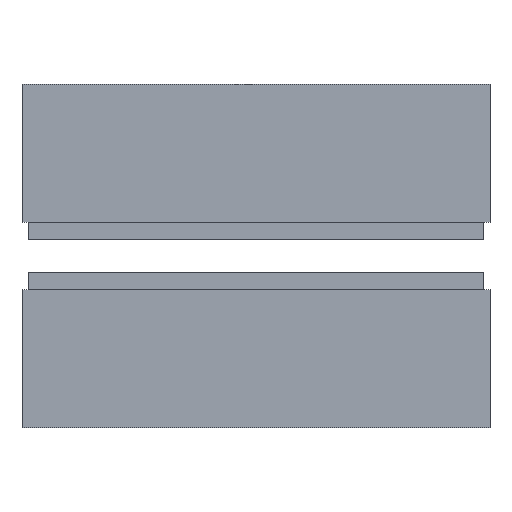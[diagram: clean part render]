
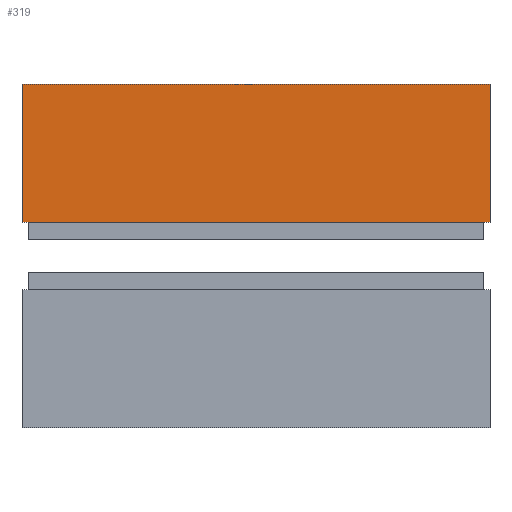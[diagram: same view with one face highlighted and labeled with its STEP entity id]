
A CAD part, top view. The second image highlights one B-rep face of the part: STEP entity #319.
In plain terms, the highlighted planar face has unit normal (0, 0, 1).
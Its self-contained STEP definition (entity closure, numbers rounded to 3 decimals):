
#24 = VERTEX_POINT('',#25);
#25 = CARTESIAN_POINT('',(-68.8,9.9,13.1));
#32 = PLANE('',#33);
#33 = AXIS2_PLACEMENT_3D('',#34,#35,#36);
#34 = CARTESIAN_POINT('',(-68.8,9.9,4.));
#35 = DIRECTION('',(1.,0.,-0.));
#36 = DIRECTION('',(0.,0.,1.));
#44 = PLANE('',#45);
#45 = AXIS2_PLACEMENT_3D('',#46,#47,#48);
#46 = CARTESIAN_POINT('',(-68.8,9.9,4.));
#47 = DIRECTION('',(-0.,1.,0.));
#48 = DIRECTION('',(0.,0.,1.));
#85 = VERTEX_POINT('',#86);
#86 = CARTESIAN_POINT('',(-68.8,50.5,13.1));
#100 = PLANE('',#101);
#101 = AXIS2_PLACEMENT_3D('',#102,#103,#104);
#102 = CARTESIAN_POINT('',(-68.8,50.5,4.));
#103 = DIRECTION('',(-0.,1.,0.));
#104 = DIRECTION('',(0.,0.,1.));
#112 = EDGE_CURVE('',#24,#85,#113,.T.);
#113 = SURFACE_CURVE('',#114,(#118,#125),.PCURVE_S1.);
#114 = LINE('',#115,#116);
#115 = CARTESIAN_POINT('',(-68.8,9.9,13.1));
#116 = VECTOR('',#117,1.);
#117 = DIRECTION('',(-0.,1.,0.));
#118 = PCURVE('',#32,#119);
#119 = DEFINITIONAL_REPRESENTATION('',(#120),#124);
#120 = LINE('',#121,#122);
#121 = CARTESIAN_POINT('',(9.1,0.));
#122 = VECTOR('',#123,1.);
#123 = DIRECTION('',(0.,-1.));
#124 = ( GEOMETRIC_REPRESENTATION_CONTEXT(2) 
PARAMETRIC_REPRESENTATION_CONTEXT() REPRESENTATION_CONTEXT('2D SPACE',''
  ) );
#125 = PCURVE('',#126,#131);
#126 = PLANE('',#127);
#127 = AXIS2_PLACEMENT_3D('',#128,#129,#130);
#128 = CARTESIAN_POINT('',(-68.8,9.9,13.1));
#129 = DIRECTION('',(0.,0.,1.));
#130 = DIRECTION('',(1.,0.,-0.));
#131 = DEFINITIONAL_REPRESENTATION('',(#132),#136);
#132 = LINE('',#133,#134);
#133 = CARTESIAN_POINT('',(0.,0.));
#134 = VECTOR('',#135,1.);
#135 = DIRECTION('',(0.,1.));
#136 = ( GEOMETRIC_REPRESENTATION_CONTEXT(2) 
PARAMETRIC_REPRESENTATION_CONTEXT() REPRESENTATION_CONTEXT('2D SPACE',''
  ) );
#165 = EDGE_CURVE('',#24,#166,#168,.T.);
#166 = VERTEX_POINT('',#167);
#167 = CARTESIAN_POINT('',(68.8,9.9,13.1));
#168 = SURFACE_CURVE('',#169,(#173,#180),.PCURVE_S1.);
#169 = LINE('',#170,#171);
#170 = CARTESIAN_POINT('',(-68.8,9.9,13.1));
#171 = VECTOR('',#172,1.);
#172 = DIRECTION('',(1.,0.,-0.));
#173 = PCURVE('',#44,#174);
#174 = DEFINITIONAL_REPRESENTATION('',(#175),#179);
#175 = LINE('',#176,#177);
#176 = CARTESIAN_POINT('',(9.1,0.));
#177 = VECTOR('',#178,1.);
#178 = DIRECTION('',(0.,1.));
#179 = ( GEOMETRIC_REPRESENTATION_CONTEXT(2) 
PARAMETRIC_REPRESENTATION_CONTEXT() REPRESENTATION_CONTEXT('2D SPACE',''
  ) );
#180 = PCURVE('',#126,#181);
#181 = DEFINITIONAL_REPRESENTATION('',(#182),#186);
#182 = LINE('',#183,#184);
#183 = CARTESIAN_POINT('',(0.,0.));
#184 = VECTOR('',#185,1.);
#185 = DIRECTION('',(1.,0.));
#186 = ( GEOMETRIC_REPRESENTATION_CONTEXT(2) 
PARAMETRIC_REPRESENTATION_CONTEXT() REPRESENTATION_CONTEXT('2D SPACE',''
  ) );
#202 = PLANE('',#203);
#203 = AXIS2_PLACEMENT_3D('',#204,#205,#206);
#204 = CARTESIAN_POINT('',(68.8,9.9,4.));
#205 = DIRECTION('',(1.,0.,-0.));
#206 = DIRECTION('',(0.,0.,1.));
#319 = ADVANCED_FACE('',(#320),#126,.T.);
#320 = FACE_BOUND('',#321,.T.);
#321 = EDGE_LOOP('',(#322,#323,#324,#347));
#322 = ORIENTED_EDGE('',*,*,#112,.F.);
#323 = ORIENTED_EDGE('',*,*,#165,.T.);
#324 = ORIENTED_EDGE('',*,*,#325,.T.);
#325 = EDGE_CURVE('',#166,#326,#328,.T.);
#326 = VERTEX_POINT('',#327);
#327 = CARTESIAN_POINT('',(68.8,50.5,13.1));
#328 = SURFACE_CURVE('',#329,(#333,#340),.PCURVE_S1.);
#329 = LINE('',#330,#331);
#330 = CARTESIAN_POINT('',(68.8,9.9,13.1));
#331 = VECTOR('',#332,1.);
#332 = DIRECTION('',(-0.,1.,0.));
#333 = PCURVE('',#126,#334);
#334 = DEFINITIONAL_REPRESENTATION('',(#335),#339);
#335 = LINE('',#336,#337);
#336 = CARTESIAN_POINT('',(137.6,0.));
#337 = VECTOR('',#338,1.);
#338 = DIRECTION('',(0.,1.));
#339 = ( GEOMETRIC_REPRESENTATION_CONTEXT(2) 
PARAMETRIC_REPRESENTATION_CONTEXT() REPRESENTATION_CONTEXT('2D SPACE',''
  ) );
#340 = PCURVE('',#202,#341);
#341 = DEFINITIONAL_REPRESENTATION('',(#342),#346);
#342 = LINE('',#343,#344);
#343 = CARTESIAN_POINT('',(9.1,0.));
#344 = VECTOR('',#345,1.);
#345 = DIRECTION('',(0.,-1.));
#346 = ( GEOMETRIC_REPRESENTATION_CONTEXT(2) 
PARAMETRIC_REPRESENTATION_CONTEXT() REPRESENTATION_CONTEXT('2D SPACE',''
  ) );
#347 = ORIENTED_EDGE('',*,*,#348,.F.);
#348 = EDGE_CURVE('',#85,#326,#349,.T.);
#349 = SURFACE_CURVE('',#350,(#354,#361),.PCURVE_S1.);
#350 = LINE('',#351,#352);
#351 = CARTESIAN_POINT('',(-68.8,50.5,13.1));
#352 = VECTOR('',#353,1.);
#353 = DIRECTION('',(1.,0.,-0.));
#354 = PCURVE('',#126,#355);
#355 = DEFINITIONAL_REPRESENTATION('',(#356),#360);
#356 = LINE('',#357,#358);
#357 = CARTESIAN_POINT('',(0.,40.6));
#358 = VECTOR('',#359,1.);
#359 = DIRECTION('',(1.,0.));
#360 = ( GEOMETRIC_REPRESENTATION_CONTEXT(2) 
PARAMETRIC_REPRESENTATION_CONTEXT() REPRESENTATION_CONTEXT('2D SPACE',''
  ) );
#361 = PCURVE('',#100,#362);
#362 = DEFINITIONAL_REPRESENTATION('',(#363),#367);
#363 = LINE('',#364,#365);
#364 = CARTESIAN_POINT('',(9.1,0.));
#365 = VECTOR('',#366,1.);
#366 = DIRECTION('',(0.,1.));
#367 = ( GEOMETRIC_REPRESENTATION_CONTEXT(2) 
PARAMETRIC_REPRESENTATION_CONTEXT() REPRESENTATION_CONTEXT('2D SPACE',''
  ) );
